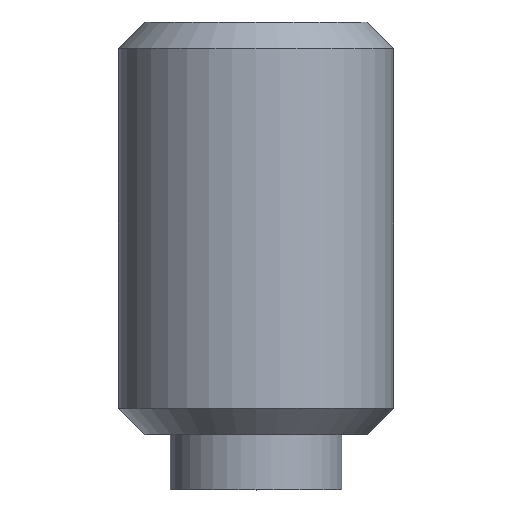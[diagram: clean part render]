
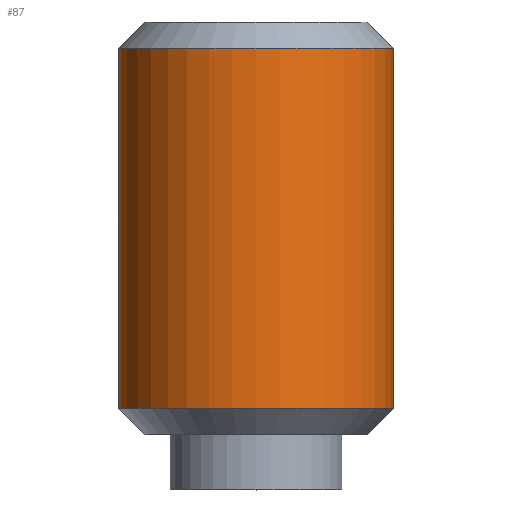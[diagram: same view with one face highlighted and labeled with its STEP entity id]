
A CAD part, top view. The second image highlights one B-rep face of the part: STEP entity #87.
In plain terms, the highlighted cylindrical face has radius 4 mm (diameter 8 mm), a full revolution.
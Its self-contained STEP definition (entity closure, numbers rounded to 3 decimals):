
#87 = ADVANCED_FACE( '', ( #118, #119 ), #120, .T. );
#118 = FACE_OUTER_BOUND( '', #152, .T. );
#119 = FACE_OUTER_BOUND( '', #153, .T. );
#120 = CYLINDRICAL_SURFACE( '', #154, 4. );
#152 = EDGE_LOOP( '', ( #238 ) );
#153 = EDGE_LOOP( '', ( #239 ) );
#154 = AXIS2_PLACEMENT_3D( '', #240, #241, #242 );
#238 = ORIENTED_EDGE( '', *, *, #270, .F. );
#239 = ORIENTED_EDGE( '', *, *, #271, .T. );
#240 = CARTESIAN_POINT( '', ( 0., 0., 0. ) );
#241 = DIRECTION( '', ( 0., 1., 0. ) );
#242 = DIRECTION( '', ( 0., 0., -1. ) );
#270 = EDGE_CURVE( '', #310, #310, #311, .T. );
#271 = EDGE_CURVE( '', #312, #312, #313, .T. );
#310 = VERTEX_POINT( '', #370 );
#311 = CIRCLE( '', #371, 4. );
#312 = VERTEX_POINT( '', #372 );
#313 = CIRCLE( '', #373, 4. );
#370 = CARTESIAN_POINT( '', ( 0., 2.367, -4. ) );
#371 = AXIS2_PLACEMENT_3D( '', #404, #405, #406 );
#372 = CARTESIAN_POINT( '', ( 0., 12.833, -4. ) );
#373 = AXIS2_PLACEMENT_3D( '', #407, #408, #409 );
#404 = CARTESIAN_POINT( '', ( 0., 2.367, 0. ) );
#405 = DIRECTION( '', ( 0., -1., 0. ) );
#406 = DIRECTION( '', ( 0., 0., -1. ) );
#407 = CARTESIAN_POINT( '', ( 0., 12.833, 0. ) );
#408 = DIRECTION( '', ( 0., -1., 0. ) );
#409 = DIRECTION( '', ( 0., 0., -1. ) );
